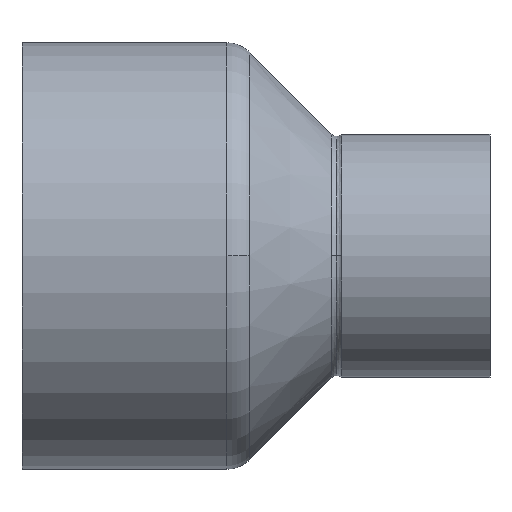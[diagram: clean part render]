
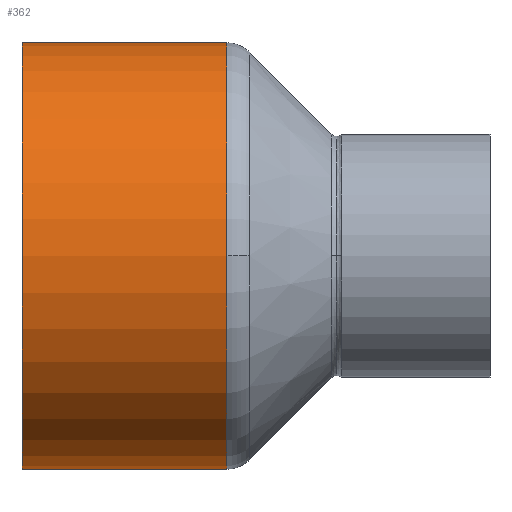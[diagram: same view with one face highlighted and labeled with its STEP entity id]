
A CAD part, top view. The second image highlights one B-rep face of the part: STEP entity #362.
In plain terms, the highlighted cylindrical face has radius 33.8 mm (diameter 67.6 mm), a partial arc.
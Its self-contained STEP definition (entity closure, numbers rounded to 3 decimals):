
#312=CARTESIAN_POINT('',(16.25,0.0,0.0));
#313=DIRECTION('',(1.0,0.0,0.0));
#314=DIRECTION('',(0.0,1.0,0.0));
#315=AXIS2_PLACEMENT_3D('',#312,#313,#314);
#316=CYLINDRICAL_SURFACE('',#315,33.8);
#317=CARTESIAN_POINT('',(0.0,33.8,0.0));
#318=VERTEX_POINT('',#317);
#319=CARTESIAN_POINT('',(32.5,33.8,0.0));
#320=VERTEX_POINT('',#319);
#321=CARTESIAN_POINT('',(0.0,33.8,0.0));
#322=DIRECTION('',(1.0,0.0,0.0));
#323=VECTOR('',#322,32.5);
#324=LINE('',#321,#323);
#325=EDGE_CURVE('',#318,#320,#324,.T.);
#326=ORIENTED_EDGE('',*,*,#325,.F.);
#327=CARTESIAN_POINT('',(0.0,-33.8,0.));
#328=VERTEX_POINT('',#327);
#329=CARTESIAN_POINT('',(0.0,0.0,0.0));
#330=DIRECTION('',(1.0,0.0,0.0));
#331=DIRECTION('',(0.0,1.0,0.0));
#332=AXIS2_PLACEMENT_3D('',#329,#330,#331);
#333=CIRCLE('',#332,33.8);
#334=EDGE_CURVE('',#318,#328,#333,.T.);
#335=ORIENTED_EDGE('',*,*,#334,.T.);
#336=CARTESIAN_POINT('',(32.5,-33.8,0.));
#337=VERTEX_POINT('',#336);
#338=CARTESIAN_POINT('',(32.5,-33.8,0.));
#339=DIRECTION('',(-1.0,0.0,0.0));
#340=VECTOR('',#339,32.5);
#341=LINE('',#338,#340);
#342=EDGE_CURVE('',#337,#328,#341,.T.);
#343=ORIENTED_EDGE('',*,*,#342,.F.);
#344=CARTESIAN_POINT('',(32.5,0.,33.8));
#345=VERTEX_POINT('',#344);
#346=CARTESIAN_POINT('',(32.5,0.0,0.0));
#347=DIRECTION('',(1.0,0.0,0.0));
#348=DIRECTION('',(0.0,1.0,0.0));
#349=AXIS2_PLACEMENT_3D('',#346,#347,#348);
#350=CIRCLE('',#349,33.8);
#351=EDGE_CURVE('',#345,#337,#350,.T.);
#352=ORIENTED_EDGE('',*,*,#351,.F.);
#353=CARTESIAN_POINT('',(32.5,0.0,0.0));
#354=DIRECTION('',(1.0,0.0,0.0));
#355=DIRECTION('',(0.0,1.0,0.0));
#356=AXIS2_PLACEMENT_3D('',#353,#354,#355);
#357=CIRCLE('',#356,33.8);
#358=EDGE_CURVE('',#320,#345,#357,.T.);
#359=ORIENTED_EDGE('',*,*,#358,.F.);
#360=EDGE_LOOP('',(#326,#335,#343,#352,#359));
#361=FACE_OUTER_BOUND('',#360,.T.);
#362=ADVANCED_FACE('',(#361),#316,.T.);
